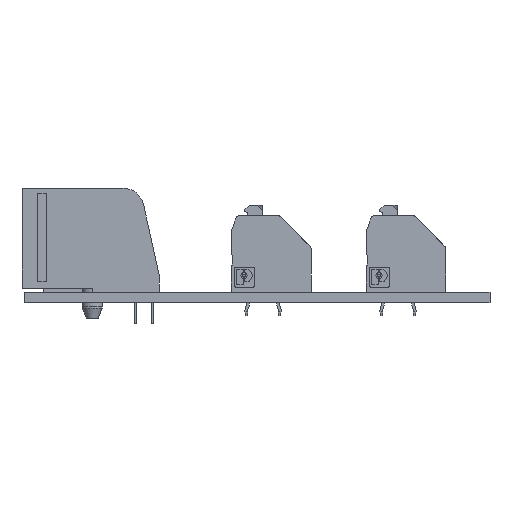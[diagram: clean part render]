
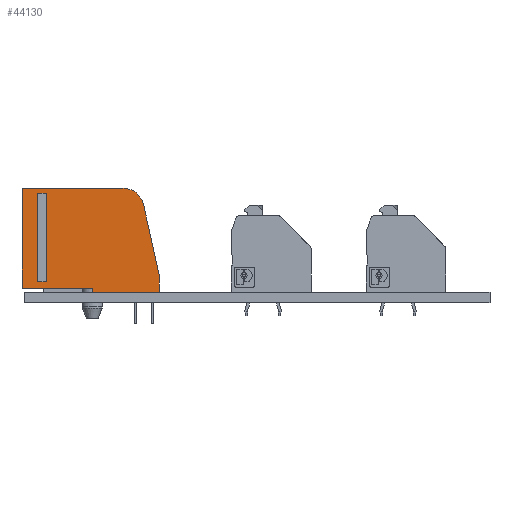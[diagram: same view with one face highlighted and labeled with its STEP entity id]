
A CAD part, front view. The second image highlights one B-rep face of the part: STEP entity #44130.
In plain terms, the highlighted planar face has unit normal (0, -1, 0) as drawn and (1, 0, 0) by its records, which use the part's own axes.
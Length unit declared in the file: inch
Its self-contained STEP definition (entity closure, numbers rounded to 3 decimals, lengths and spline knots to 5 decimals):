
#1301 = EDGE_CURVE ( 'NONE', #25772, #48084, #64957, .T. ) ;
#2724 = VECTOR ( 'NONE', #7120, 39.37008 ) ;
#2990 = VECTOR ( 'NONE', #60659, 39.37008 ) ;
#4118 = DIRECTION ( 'NONE',  ( 0., 0., 1. ) ) ;
#5146 = VECTOR ( 'NONE', #43878, 39.37008 ) ;
#6287 = FACE_OUTER_BOUND ( 'NONE', #63153, .T. ) ;
#7120 = DIRECTION ( 'NONE',  ( 0., 0., 1. ) ) ;
#7382 = DIRECTION ( 'NONE',  ( -1., 0., 0. ) ) ;
#7923 = CARTESIAN_POINT ( 'NONE',  ( 0.305, 0.295, -0.405 ) ) ;
#8907 = VECTOR ( 'NONE', #31357, 39.37008 ) ;
#10332 = VECTOR ( 'NONE', #4118, 39.37008 ) ;
#10562 = CIRCLE ( 'NONE', #54226, 0.125 ) ;
#10943 = ORIENTED_EDGE ( 'NONE', *, *, #17327, .F. ) ;
#12353 = CARTESIAN_POINT ( 'NONE',  ( 0.305, -0.3323, -0.8262 ) ) ;
#12955 = ORIENTED_EDGE ( 'NONE', *, *, #57141, .F. ) ;
#13389 = LINE ( 'NONE', #37501, #8907 ) ;
#14269 = CARTESIAN_POINT ( 'NONE',  ( 0.305, -0.32, -0.81 ) ) ;
#15114 = VERTEX_POINT ( 'NONE', #56415 ) ;
#17327 = EDGE_CURVE ( 'NONE', #58639, #69432, #68776, .T. ) ;
#17958 = CARTESIAN_POINT ( 'NONE',  ( 0.305, -0.32, -0.415 ) ) ;
#20415 = DIRECTION ( 'NONE',  ( 0., 0., -1. ) ) ;
#21836 = VECTOR ( 'NONE', #24478, 39.37008 ) ;
#22037 = EDGE_CURVE ( 'NONE', #63842, #28758, #65984, .T. ) ;
#22058 = EDGE_CURVE ( 'NONE', #15114, #31415, #34060, .T. ) ;
#22578 = CARTESIAN_POINT ( 'NONE',  ( 0.305, -0.295, -0.405 ) ) ;
#23475 = CARTESIAN_POINT ( 'NONE',  ( 0.305, -0.215, -0.81 ) ) ;
#24081 = ORIENTED_EDGE ( 'NONE', *, *, #57324, .F. ) ;
#24478 = DIRECTION ( 'NONE',  ( 0., -0.976, -0.216 ) ) ;
#25406 = LINE ( 'NONE', #34974, #21836 ) ;
#25612 = DIRECTION ( 'NONE',  ( 0., 1., 0. ) ) ;
#25772 = VERTEX_POINT ( 'NONE', #72923 ) ;
#27102 = VECTOR ( 'NONE', #51051, 39.37008 ) ;
#27239 = CARTESIAN_POINT ( 'NONE',  ( 0.305, 0.267, -0.405 ) ) ;
#27550 = EDGE_CURVE ( 'NONE', #69545, #31698, #56623, .T. ) ;
#27633 = CARTESIAN_POINT ( 'NONE',  ( 0.305, -0.0125, -0.81 ) ) ;
#28130 = FACE_BOUND ( 'NONE', #58887, .T. ) ;
#28162 = CARTESIAN_POINT ( 'NONE',  ( 0.305, -0.258, -0.093 ) ) ;
#28758 = VERTEX_POINT ( 'NONE', #39398 ) ;
#29651 = DIRECTION ( 'NONE',  ( 0., 0., 1. ) ) ;
#30257 = VERTEX_POINT ( 'NONE', #47802 ) ;
#30541 = ORIENTED_EDGE ( 'NONE', *, *, #36967, .F. ) ;
#30625 = ORIENTED_EDGE ( 'NONE', *, *, #74749, .F. ) ;
#31320 = DIRECTION ( 'NONE',  ( 0., 0., -1. ) ) ;
#31357 = DIRECTION ( 'NONE',  ( 0., 1., 0. ) ) ;
#31415 = VERTEX_POINT ( 'NONE', #28162 ) ;
#31531 = CARTESIAN_POINT ( 'NONE',  ( 0.305, -0.0125, -0.093 ) ) ;
#31698 = VERTEX_POINT ( 'NONE', #47599 ) ;
#32465 = CARTESIAN_POINT ( 'NONE',  ( 0.305, 0.295, -0.59661 ) ) ;
#32637 = LINE ( 'NONE', #68672, #27102 ) ;
#33446 = ORIENTED_EDGE ( 'NONE', *, *, #60514, .F. ) ;
#34060 = LINE ( 'NONE', #31531, #2990 ) ;
#34974 = CARTESIAN_POINT ( 'NONE',  ( 0.305, 0.2053, -0.71682 ) ) ;
#35788 = DIRECTION ( 'NONE',  ( -1., 0., 0. ) ) ;
#36967 = EDGE_CURVE ( 'NONE', #31415, #63842, #64357, .T. ) ;
#37501 = CARTESIAN_POINT ( 'NONE',  ( 0.305, -0.0125, -0.415 ) ) ;
#37984 = CARTESIAN_POINT ( 'NONE',  ( 0.305, -0.258, -0.405 ) ) ;
#39063 = CARTESIAN_POINT ( 'NONE',  ( 0.305, -0.32, -0.405 ) ) ;
#39398 = CARTESIAN_POINT ( 'NONE',  ( 0.305, 0.267, -0.143 ) ) ;
#42099 = EDGE_CURVE ( 'NONE', #53775, #58639, #66191, .T. ) ;
#42342 = CARTESIAN_POINT ( 'NONE',  ( 0.305, 0.17, -0.59661 ) ) ;
#43055 = ORIENTED_EDGE ( 'NONE', *, *, #43686, .F. ) ;
#43686 = EDGE_CURVE ( 'NONE', #30257, #53775, #25406, .T. ) ;
#43878 = DIRECTION ( 'NONE',  ( 0., 0., 1. ) ) ;
#44130 = ADVANCED_FACE ( 'NONE', ( #28130, #6287 ), #70569, .F. ) ;
#46362 = ORIENTED_EDGE ( 'NONE', *, *, #22058, .F. ) ;
#47599 = CARTESIAN_POINT ( 'NONE',  ( 0.305, -0.295, 0. ) ) ;
#47608 = VECTOR ( 'NONE', #20415, 39.37008 ) ;
#47802 = CARTESIAN_POINT ( 'NONE',  ( 0.305, 0.19705, -0.71865 ) ) ;
#48084 = VERTEX_POINT ( 'NONE', #32465 ) ;
#48266 = DIRECTION ( 'NONE',  ( 0., -1., 0. ) ) ;
#49584 = CARTESIAN_POINT ( 'NONE',  ( 0.305, -0.258, -0.143 ) ) ;
#50659 = VECTOR ( 'NONE', #62928, 39.37008 ) ;
#51051 = DIRECTION ( 'NONE',  ( 0., 1., 0. ) ) ;
#51196 = AXIS2_PLACEMENT_3D ( 'NONE', #12353, #35788, #29651 ) ;
#53775 = VERTEX_POINT ( 'NONE', #23475 ) ;
#54226 = AXIS2_PLACEMENT_3D ( 'NONE', #42342, #7382, #48266 ) ;
#54304 = VECTOR ( 'NONE', #31320, 39.37008 ) ;
#56338 = LINE ( 'NONE', #27239, #5146 ) ;
#56415 = CARTESIAN_POINT ( 'NONE',  ( 0.305, 0.267, -0.093 ) ) ;
#56623 = LINE ( 'NONE', #22578, #2724 ) ;
#56982 = ORIENTED_EDGE ( 'NONE', *, *, #22037, .F. ) ;
#57141 = EDGE_CURVE ( 'NONE', #69432, #69545, #13389, .T. ) ;
#57324 = EDGE_CURVE ( 'NONE', #28758, #15114, #56338, .T. ) ;
#58639 = VERTEX_POINT ( 'NONE', #14269 ) ;
#58887 = EDGE_LOOP ( 'NONE', ( #56982, #30541, #46362, #24081 ) ) ;
#58993 = ORIENTED_EDGE ( 'NONE', *, *, #1301, .F. ) ;
#59758 = ORIENTED_EDGE ( 'NONE', *, *, #42099, .F. ) ;
#59815 = CARTESIAN_POINT ( 'NONE',  ( 0.305, -0.295, -0.415 ) ) ;
#60514 = EDGE_CURVE ( 'NONE', #31698, #25772, #32637, .T. ) ;
#60659 = DIRECTION ( 'NONE',  ( 0., -1., 0. ) ) ;
#62928 = DIRECTION ( 'NONE',  ( 0., -1., 0. ) ) ;
#63153 = EDGE_LOOP ( 'NONE', ( #30625, #58993, #33446, #65732, #12955, #10943, #59758, #43055 ) ) ;
#63842 = VERTEX_POINT ( 'NONE', #49584 ) ;
#64357 = LINE ( 'NONE', #37984, #54304 ) ;
#64957 = LINE ( 'NONE', #7923, #47608 ) ;
#65732 = ORIENTED_EDGE ( 'NONE', *, *, #27550, .F. ) ;
#65984 = LINE ( 'NONE', #72443, #67849 ) ;
#66191 = LINE ( 'NONE', #27633, #50659 ) ;
#67849 = VECTOR ( 'NONE', #25612, 39.37008 ) ;
#68672 = CARTESIAN_POINT ( 'NONE',  ( 0.305, -0.0125, 0. ) ) ;
#68776 = LINE ( 'NONE', #39063, #10332 ) ;
#69432 = VERTEX_POINT ( 'NONE', #17958 ) ;
#69545 = VERTEX_POINT ( 'NONE', #59815 ) ;
#70569 = PLANE ( 'NONE',  #51196 ) ;
#72443 = CARTESIAN_POINT ( 'NONE',  ( 0.305, -0.0125, -0.143 ) ) ;
#72923 = CARTESIAN_POINT ( 'NONE',  ( 0.305, 0.295, 0. ) ) ;
#74749 = EDGE_CURVE ( 'NONE', #48084, #30257, #10562, .T. ) ;
